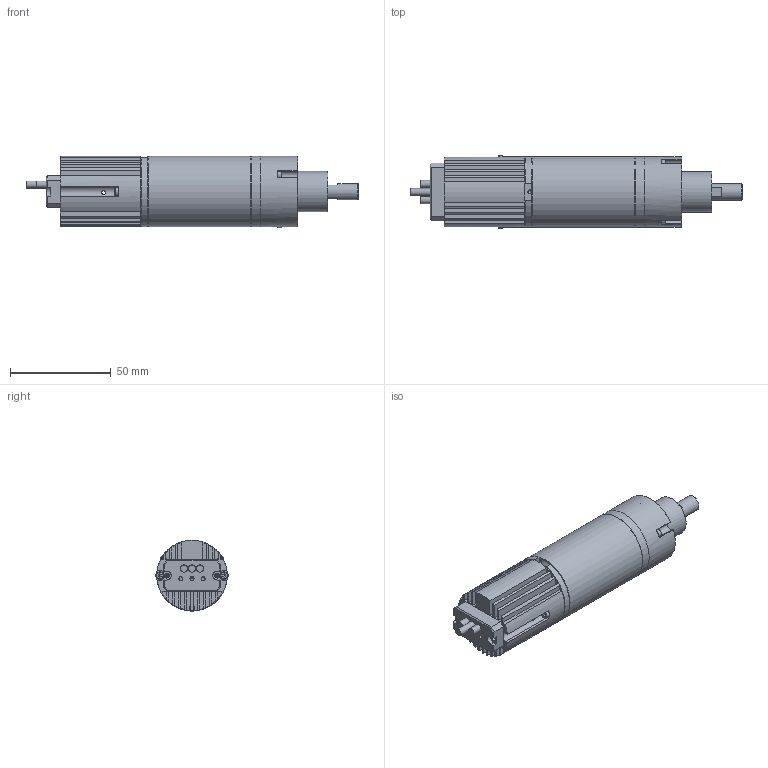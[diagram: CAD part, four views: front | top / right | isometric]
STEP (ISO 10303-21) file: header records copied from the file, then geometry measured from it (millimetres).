
FILE_DESCRIPTION((''),'2;1');
FILE_NAME('D:\SMAC-CAD\CBL\CBL35\CBC\CBL35C-010-YY-3D_A.stp','2015-02-12T14:28:15',('ToanVu'),(''),'Autodesk Inventor 2008','Autodesk Inventor 2008','');
FILE_SCHEMA(('AUTOMOTIVE_DESIGN { 1 0 10303 214 1 1 1 1 }'));
Length unit declared in the file: millimetre
Products named in the file (11): CBL35C-010-YY-3D_A; 18568-01_C; 14714-04_C; 14714-01_C; 14714-26_B; 21564-05_A; Broached Socket Head Cap Screw - Metric M2x0.4 x 3; 23640-01_A; CBC35COVER; CBC-CABLE;  Part 1 Hexagon Socket Head Cap Screw - Metric M2 x 3
Assembly tree (17 placements, depth 2):
  CBL35C-010-YY-3D_A
    18568-01_C
    14714-04_C
    14714-01_C
    14714-26_B
    21564-05_A
    Broached Socket Head Cap Screw - Metric M2x0.4 x 3  x5
    23640-01_A
    CBC35COVER
    CBC-CABLE  x3
     Part 1 Hexagon Socket Head Cap Screw - Metric M2 x 3  x2
Bounding box: 164.8 x 35.8 x 35.4 mm (x, y, z)
Volume: 58131 mm3; surface area: 46205.4 mm2
Topology: 17 solids, 17 shells, 421 faces, 1053 edges, 675 vertices
Faces by surface type: plane 176, cylinder 124, cone 67, bspline 47, torus 7
Full cylindrical faces by diameter (mm): 1.567 x10, 2 x14, 2.013 x2, 2.1 x1, 2.4 x9, 2.459 x4, 3 x1, 3.5 x3, 3.6 x3, 3.8 x7, 4 x2, 4.134 x1, 5.5 x1, 6 x1, 8 x1, 10 x1, 10.5 x2, 11.5 x1, 15 x2, 16 x1, 18.4 x1, 20 x1, 35 x3
Entity records: 10480 total; most frequent: CARTESIAN_POINT 2272, DIRECTION 1662, ORIENTED_EDGE 1464, EDGE_CURVE 732, AXIS2_PLACEMENT_3D 638, VERTEX_POINT 532, EDGE_LOOP 532, VECTOR 386
